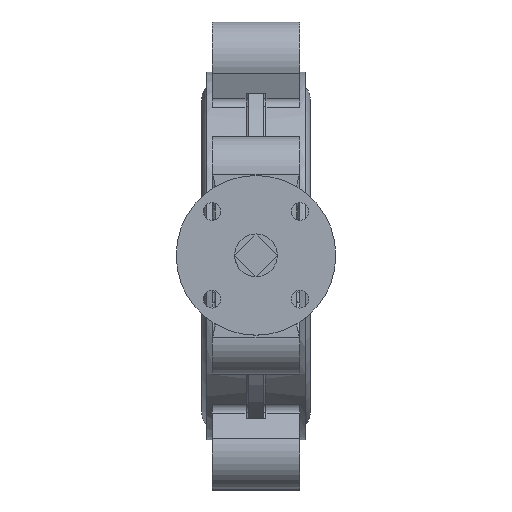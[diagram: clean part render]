
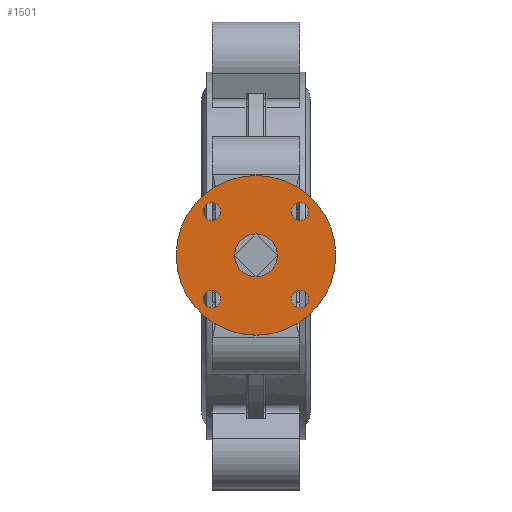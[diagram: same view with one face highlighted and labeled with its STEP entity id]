
A CAD part, top view. The second image highlights one B-rep face of the part: STEP entity #1501.
In plain terms, the highlighted planar face has unit normal (0, 0, 1).
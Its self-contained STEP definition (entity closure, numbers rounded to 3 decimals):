
#1501=ADVANCED_FACE('',(#4816,#4818,#4820,#4822,#4824,#4826),#4828,.T.);
#4816=FACE_BOUND('',#4817,.T.);
#4817=EDGE_LOOP('',(#8796));
#4818=FACE_BOUND('',#4819,.T.);
#4819=EDGE_LOOP('',(#8797));
#4820=FACE_BOUND('',#4821,.T.);
#4821=EDGE_LOOP('',(#8798));
#4822=FACE_BOUND('',#4823,.T.);
#4823=EDGE_LOOP('',(#8799));
#4824=FACE_BOUND('',#4825,.T.);
#4825=EDGE_LOOP('',(#8800));
#4826=FACE_BOUND('',#4827,.T.);
#4827=EDGE_LOOP('',(#8801));
#4828=PLANE('',#4829);
#4829=AXIS2_PLACEMENT_3D('',#4830,#4831,#4832);
#4830=CARTESIAN_POINT('',(0.,0.,210.));
#4831=DIRECTION('',(0.,0.,1.));
#4832=DIRECTION('',(1.,0.,0.));
#8796=ORIENTED_EDGE('',*,*,#11086,.T.);
#8797=ORIENTED_EDGE('',*,*,#11415,.T.);
#8798=ORIENTED_EDGE('',*,*,#11093,.T.);
#8799=ORIENTED_EDGE('',*,*,#11092,.T.);
#8800=ORIENTED_EDGE('',*,*,#11091,.T.);
#8801=ORIENTED_EDGE('',*,*,#11090,.T.);
#11086=EDGE_CURVE('',#12930,#12930,#12931,.T.);
#11090=EDGE_CURVE('',#12935,#12935,#12936,.F.);
#11091=EDGE_CURVE('',#12937,#12937,#12938,.F.);
#11092=EDGE_CURVE('',#12939,#12939,#12940,.F.);
#11093=EDGE_CURVE('',#12941,#12941,#12942,.F.);
#11415=EDGE_CURVE('',#13508,#13508,#13509,.F.);
#12930=VERTEX_POINT('',#16736);
#12931=CIRCLE('',#16737,45.);
#12935=VERTEX_POINT('',#16752);
#12936=CIRCLE('',#16753,5.);
#12937=VERTEX_POINT('',#16757);
#12938=CIRCLE('',#16758,5.);
#12939=VERTEX_POINT('',#16762);
#12940=CIRCLE('',#16763,5.);
#12941=VERTEX_POINT('',#16767);
#12942=CIRCLE('',#16768,5.);
#13508=VERTEX_POINT('',#18323);
#13509=CIRCLE('',#18324,12.021);
#16736=CARTESIAN_POINT('',(-45.,0.,210.));
#16737=AXIS2_PLACEMENT_3D('',#16738,#16739,#16740);
#16738=CARTESIAN_POINT('',(0.,0.,210.));
#16739=DIRECTION('',(0.,0.,1.));
#16740=DIRECTION('',(-1.,0.,0.));
#16752=CARTESIAN_POINT('',(-24.749,29.749,210.));
#16753=AXIS2_PLACEMENT_3D('',#16754,#16755,#16756);
#16754=CARTESIAN_POINT('',(-24.749,24.749,210.));
#16755=DIRECTION('',(0.,0.,1.));
#16756=DIRECTION('',(0.,1.,0.));
#16757=CARTESIAN_POINT('',(29.749,24.749,210.));
#16758=AXIS2_PLACEMENT_3D('',#16759,#16760,#16761);
#16759=CARTESIAN_POINT('',(24.749,24.749,210.));
#16760=DIRECTION('',(0.,0.,1.));
#16761=DIRECTION('',(1.,0.,0.));
#16762=CARTESIAN_POINT('',(24.749,-29.749,210.));
#16763=AXIS2_PLACEMENT_3D('',#16764,#16765,#16766);
#16764=CARTESIAN_POINT('',(24.749,-24.749,210.));
#16765=DIRECTION('',(0.,0.,1.));
#16766=DIRECTION('',(0.,-1.,0.));
#16767=CARTESIAN_POINT('',(-29.749,-24.749,210.));
#16768=AXIS2_PLACEMENT_3D('',#16769,#16770,#16771);
#16769=CARTESIAN_POINT('',(-24.749,-24.749,210.));
#16770=DIRECTION('',(0.,0.,1.));
#16771=DIRECTION('',(-1.,0.,0.));
#18323=CARTESIAN_POINT('',(0.,-12.021,210.));
#18324=AXIS2_PLACEMENT_3D('',#18325,#18326,#18327);
#18325=CARTESIAN_POINT('',(0.,0.,210.));
#18326=DIRECTION('',(0.,0.,1.));
#18327=DIRECTION('',(0.,-1.,0.));
